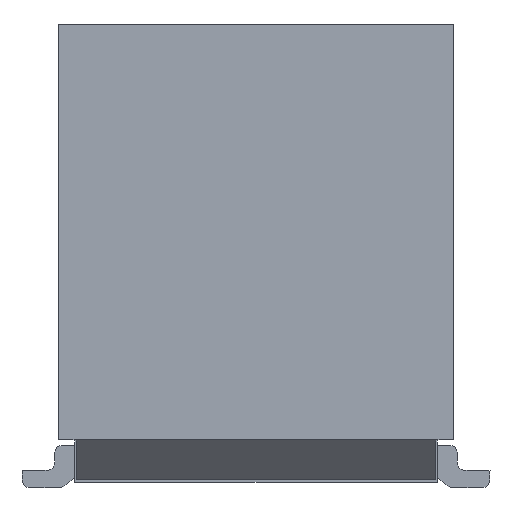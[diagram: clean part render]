
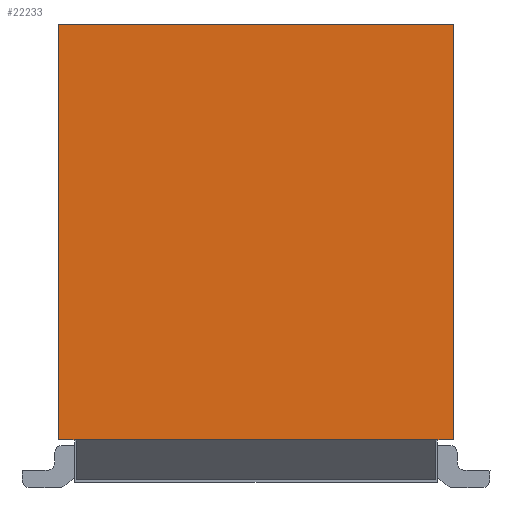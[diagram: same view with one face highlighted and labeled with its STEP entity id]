
A CAD part, front view. The second image highlights one B-rep face of the part: STEP entity #22233.
In plain terms, the highlighted planar face has unit normal (0, -1, 0).
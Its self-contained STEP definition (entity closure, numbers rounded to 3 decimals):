
#2466 = DIRECTION ( 'NONE',  ( -1., 0., 0. ) ) ;
#2550 = VECTOR ( 'NONE', #10688, 1000. ) ;
#2575 = LINE ( 'NONE', #16636, #6077 ) ;
#2723 = VECTOR ( 'NONE', #23881, 1000. ) ;
#3498 = VECTOR ( 'NONE', #23516, 1000. ) ;
#3813 = DIRECTION ( 'NONE',  ( 1., 0., 0. ) ) ;
#4505 = CARTESIAN_POINT ( 'NONE',  ( 51.32, 103.7, -2.8 ) ) ;
#4834 = CARTESIAN_POINT ( 'NONE',  ( 48.55, 103.7, 0.25 ) ) ;
#5147 = LINE ( 'NONE', #20861, #12129 ) ;
#5401 = LINE ( 'NONE', #12044, #3498 ) ;
#5933 = VERTEX_POINT ( 'NONE', #4505 ) ;
#5939 = CARTESIAN_POINT ( 'NONE',  ( 47.75, 103.7, -0.8 ) ) ;
#6001 = CARTESIAN_POINT ( 'NONE',  ( 48.55, 103.7, -2.8 ) ) ;
#6077 = VECTOR ( 'NONE', #20579, 1000. ) ;
#6205 = ORIENTED_EDGE ( 'NONE', *, *, #26638, .F. ) ;
#7529 = EDGE_CURVE ( 'NONE', #22688, #24369, #2575, .T. ) ;
#9796 = ORIENTED_EDGE ( 'NONE', *, *, #7529, .F. ) ;
#10151 = EDGE_CURVE ( 'NONE', #5933, #24369, #14817, .T. ) ;
#10490 = ORIENTED_EDGE ( 'NONE', *, *, #14651, .T. ) ;
#10688 = DIRECTION ( 'NONE',  ( 0., 0., 1. ) ) ;
#11122 = CARTESIAN_POINT ( 'NONE',  ( 48.55, 103.7, -2.8 ) ) ;
#11206 = ORIENTED_EDGE ( 'NONE', *, *, #10151, .T. ) ;
#11850 = CARTESIAN_POINT ( 'NONE',  ( 51.44, 103.7, 0.25 ) ) ;
#12044 = CARTESIAN_POINT ( 'NONE',  ( 48.68, 103.7, -2.8 ) ) ;
#12129 = VECTOR ( 'NONE', #18739, 1000. ) ;
#12217 = CARTESIAN_POINT ( 'NONE',  ( 51.45, 103.7, -2.8 ) ) ;
#14651 = EDGE_CURVE ( 'NONE', #22688, #15774, #21524, .T. ) ;
#14817 = LINE ( 'NONE', #28107, #2723 ) ;
#14855 = DIRECTION ( 'NONE',  ( 0., 1., 0. ) ) ;
#15130 = VECTOR ( 'NONE', #2466, 1000. ) ;
#15598 = VERTEX_POINT ( 'NONE', #19688 ) ;
#15774 = VERTEX_POINT ( 'NONE', #4834 ) ;
#16636 = CARTESIAN_POINT ( 'NONE',  ( 51.45, 103.7, -0.8 ) ) ;
#17116 = FACE_OUTER_BOUND ( 'NONE', #19337, .T. ) ;
#17607 = ORIENTED_EDGE ( 'NONE', *, *, #26472, .F. ) ;
#18739 = DIRECTION ( 'NONE',  ( -1., 0., 0. ) ) ;
#19121 = VERTEX_POINT ( 'NONE', #11122 ) ;
#19337 = EDGE_LOOP ( 'NONE', ( #10490, #6205, #17607, #22721, #11206, #9796 ) ) ;
#19688 = CARTESIAN_POINT ( 'NONE',  ( 48.68, 103.7, -2.8 ) ) ;
#20579 = DIRECTION ( 'NONE',  ( 0., 0., -1. ) ) ;
#20861 = CARTESIAN_POINT ( 'NONE',  ( 48.68, 103.7, -2.8 ) ) ;
#21524 = LINE ( 'NONE', #11850, #15130 ) ;
#21615 = CARTESIAN_POINT ( 'NONE',  ( 51.45, 103.7, 0.25 ) ) ;
#22233 = ADVANCED_FACE ( 'NONE', ( #17116 ), #26641, .F. ) ;
#22688 = VERTEX_POINT ( 'NONE', #21615 ) ;
#22721 = ORIENTED_EDGE ( 'NONE', *, *, #29265, .F. ) ;
#23516 = DIRECTION ( 'NONE',  ( -1., 0., 0. ) ) ;
#23881 = DIRECTION ( 'NONE',  ( 1., 0., 0. ) ) ;
#24279 = LINE ( 'NONE', #6001, #2550 ) ;
#24369 = VERTEX_POINT ( 'NONE', #12217 ) ;
#26472 = EDGE_CURVE ( 'NONE', #15598, #19121, #5401, .T. ) ;
#26638 = EDGE_CURVE ( 'NONE', #19121, #15774, #24279, .T. ) ;
#26641 = PLANE ( 'NONE',  #26963 ) ;
#26963 = AXIS2_PLACEMENT_3D ( 'NONE', #5939, #14855, #3813 ) ;
#28107 = CARTESIAN_POINT ( 'NONE',  ( 51.32, 103.7, -2.8 ) ) ;
#29265 = EDGE_CURVE ( 'NONE', #5933, #15598, #5147, .T. ) ;
